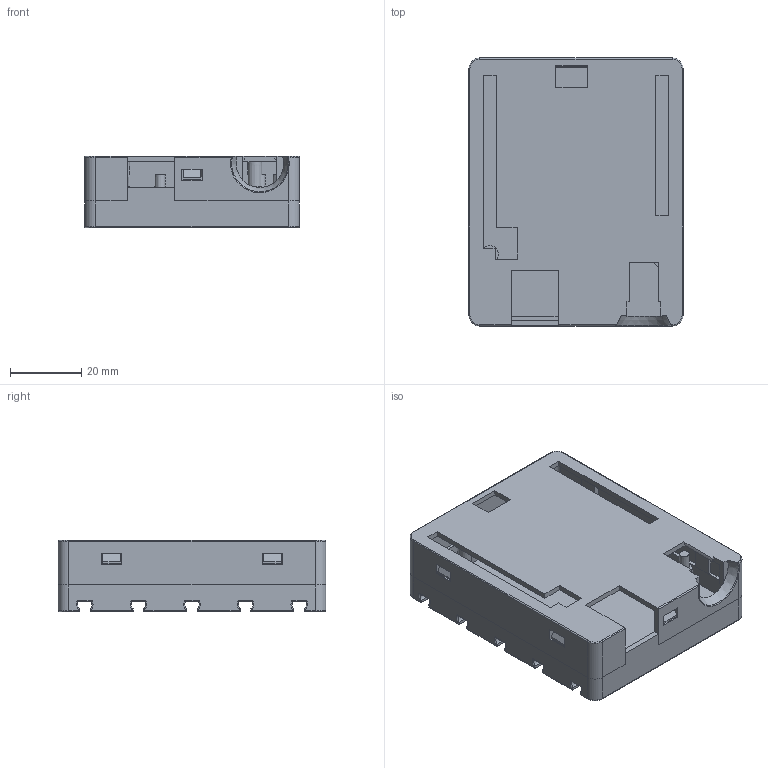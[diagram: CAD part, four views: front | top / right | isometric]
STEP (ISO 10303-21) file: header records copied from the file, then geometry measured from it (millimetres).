
FILE_DESCRIPTION(/* description */ (''),/* implementation_level */ '2;1');
FILE_NAME(/* name */ 'ft-arduino-uno-Housing.stp',/* time_stamp */ '2024-03-19T13:04:36+01:00',/* author */ (''),/* organization */ (''),/* preprocessor_version */ 'ST-DEVELOPER v19.4',/* originating_system */ 'SIEMENS PLM Software NX2306.8101',/* authorisation */ '');
FILE_SCHEMA (('AUTOMOTIVE_DESIGN { 1 0 10303 214 3 1 1 1 }'));
Length unit declared in the file: millimetre
Products named in the file (1): ft-arduino-uno-Housing
Bounding box: 60 x 75 x 20 mm (x, y, z)
Volume: 28291.1 mm3; surface area: 29626 mm2
Topology: 2 solids, 2 shells, 277 faces, 718 edges, 453 vertices
Faces by surface type: plane 153, cylinder 85, torus 29, cone 9, bspline 1
Full cylindrical faces by diameter (mm): 4.8 x4
Entity records: 8989 total; most frequent: CARTESIAN_POINT 2230, ORIENTED_EDGE 1404, DIRECTION 1362, EDGE_CURVE 702, LINE 484, VECTOR 484, VERTEX_POINT 448, AXIS2_PLACEMENT_3D 439
